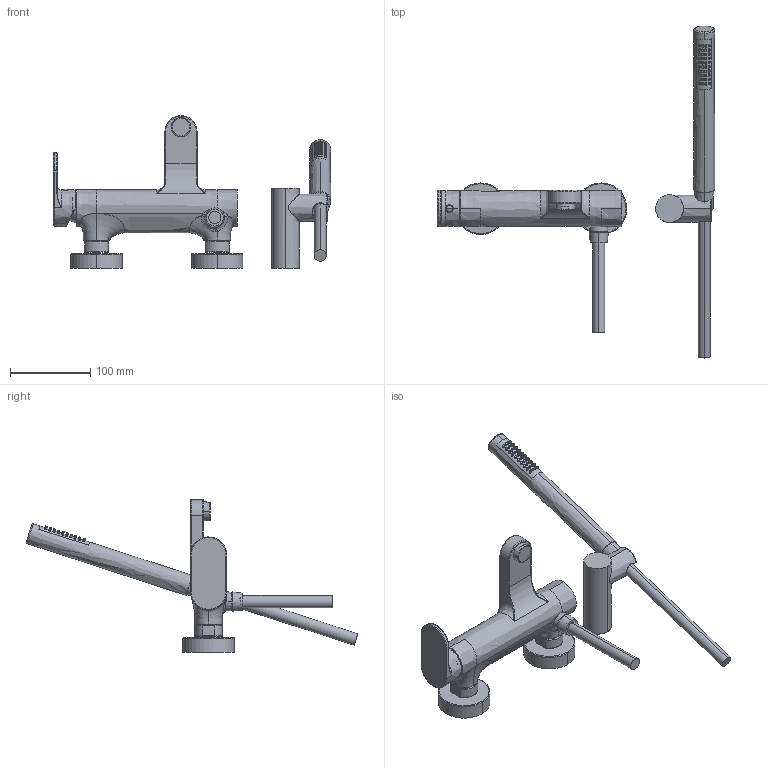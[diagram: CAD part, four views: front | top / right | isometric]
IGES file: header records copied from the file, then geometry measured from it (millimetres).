
Start section:  PTC IGES file: 64002.igs
Global section: file name: 64002.igs; native system: Creo Parametric by PTC Inc.; preprocessor: 2018100; author: volponeff; organization: Unknown; date: 20200604.101512; units: millimetre
Bounding box: 345.15 x 413 x 190.3 mm (x, y, z)
Surface area: 143239 mm2 (no closed solid volume)
Topology: 0 solids, 0 shells, 529 faces, 2364 edges, 2360 vertices
Faces by surface type: revolution 343, bspline 184, extrusion 2
